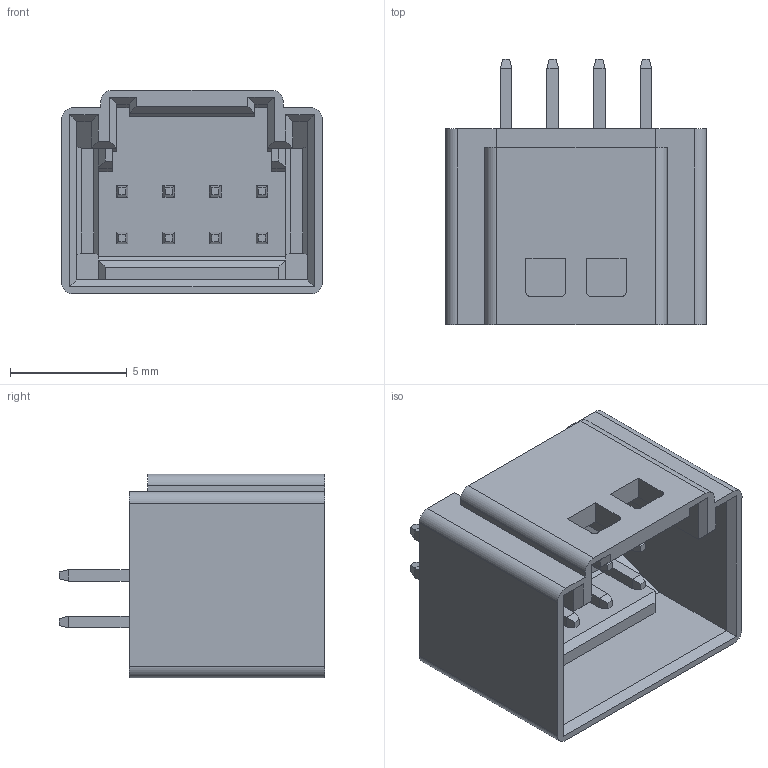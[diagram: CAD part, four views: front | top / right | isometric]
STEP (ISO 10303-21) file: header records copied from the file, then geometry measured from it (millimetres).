
FILE_DESCRIPTION(('Creo Elements/Direct Modeling STEP Export'),'2;1');
FILE_NAME('DF51K-8DP-2DSA.stp','2018-09-29T14:27:28',(''),(''),'PTC Creo Elements/Direct Modeling STEP processor for AP214 (Solid Model)','PTC Creo Elements/Direct Modeling 19.0C 15-Aug-2015 (C) Parametric Technology GmbH','');
FILE_SCHEMA(('AUTOMOTIVE_DESIGN { 1 0 10303 214 1 1 1 1 }'));
Length unit declared in the file: millimetre
Products named in the file (2): DF51K-8DP-2DSA
Assembly tree (1 placements, depth 2):
  DF51K-8DP-2DSA
    DF51K-8DP-2DSA
Bounding box: 11.2 x 11.4 x 8.75 mm (x, y, z)
Volume: 377.9 mm3; surface area: 881.7 mm2
Topology: 1 solids, 1 shells, 244 faces, 589 edges, 364 vertices
Faces by surface type: plane 234, cylinder 10
Entity records: 6630 total; most frequent: ORIENTED_EDGE 1178, CARTESIAN_POINT 1135, DIRECTION 1005, EDGE_CURVE 589, VECTOR 537, LINE 537, VERTEX_POINT 364, EDGE_LOOP 265
